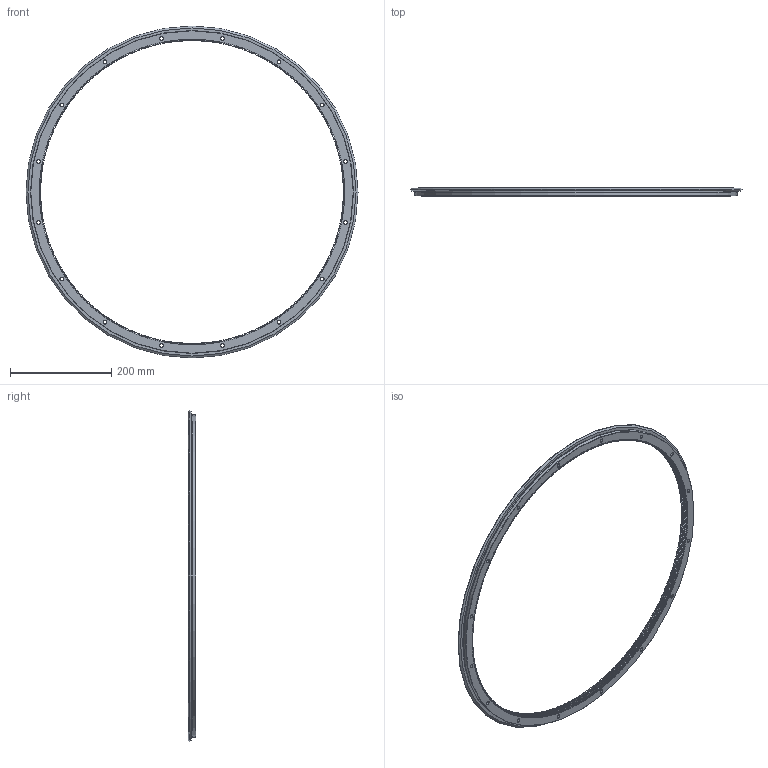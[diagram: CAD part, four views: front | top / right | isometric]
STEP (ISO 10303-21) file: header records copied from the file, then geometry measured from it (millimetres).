
FILE_DESCRIPTION( ( 'STEP AP203' ), '1' );
FILE_NAME( 'p:/temp/worker_47/temp/exporttempdir_7100_925_OHdMK/format_0/REM 655 R360 Q.stp', '2021-08-30T05:11:04', ( 'License CC BY-ND 4.0' ), ( 'CADENAS' ), ' ', 'PARTsolutions', ' ' );
FILE_SCHEMA( ( 'CONFIG_CONTROL_DESIGN' ) );
Length unit declared in the file: millimetre
Products named in the file (1): _REM 655 R360 Q
Bounding box: 655.5 x 15.5 x 655.5 mm (x, y, z)
Volume: 637945.3 mm3; surface area: 195640.8 mm2
Topology: 1 solids, 1 shells, 2474 faces, 7343 edges, 4889 vertices
Faces by surface type: cylinder 994, plane 980, cone 499, torus 1
Full cylindrical faces by diameter (mm): 6.8 x16, 11 x16, 636.3 x1, 637.5 x1
Entity records: 84310 total; most frequent: CARTESIAN_POINT 17534, ORIENTED_EDGE 14578, DIRECTION 13768, EDGE_CURVE 7289, AXIS2_PLACEMENT_3D 4964, VERTEX_POINT 4890, LINE 3840, VECTOR 3840
